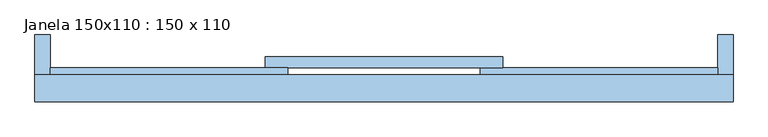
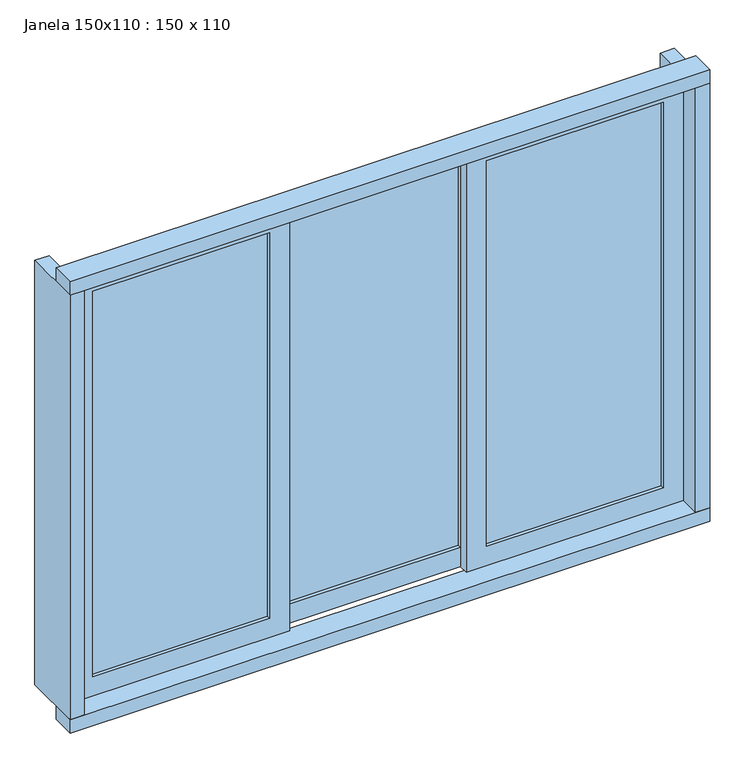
"""IFC4 building model written with IfcOpenShell, lengths in millimetres: window geometry, Janela 150x110 : 150 x 110."""

from ifc_helpers import new_model, si_unit, frame, origin, place, context, project, spatial, polyline, outline, extrude, source, transform, mapped, element, save


def janela_150x110_150_x_110_7297cc43(model_context):
    return source(origin(), model_context, "Body", "SweptSolid", [
        extrude(outline(polyline([(-137.320606, -9.5), (-137.320606, -15.5), (-570.650606, -15.5), (-570.650606, -9.5), (-137.320606, -9.5)])), frame((0.0, 0.0, 1050.0), z_axis=(0.0, 0.0, 1.0), x_axis=(1.0, 0.0, 0.0)), (0.0, 0.0, 1.0), 1000.0),
        extrude(outline(polyline([(2100.0, -87.320606), (2100.0, -620.650606), (1000.0, -620.650606), (1000.0, -87.320606), (2100.0, -87.320606)]), holes=[polyline([(2050.0, -137.320606), (1050.0, -137.320606), (1050.0, -570.650606), (2050.0, -570.650606), (2050.0, -137.320606)])]), frame((0.0, -25.0, 0.0), z_axis=(0.0, 1.0, 0.0), x_axis=(0.0, 0.0, 1.0)), (0.0, 0.0, 1.0), 25.0),
        extrude(outline(polyline([(-87.2614491, 15.5), (346.0685509, 15.5), (346.0685509, 9.5), (-87.2614491, 9.5), (-87.2614491, 15.5)])), frame((0.0, 0.0, 1050.0), z_axis=(0.0, 0.0, 1.0), x_axis=(1.0, 0.0, 0.0)), (0.0, 0.0, 1.0), 1000.0),
        extrude(outline(polyline([(2100.0, -137.2614491), (1000.0, -137.2614491), (1000.0, 396.0685509), (2100.0, 396.0685509), (2100.0, -137.2614491)]), holes=[polyline([(2050.0, -87.2614491), (2050.0, 346.0685509), (1050.0, 346.0685509), (1050.0, -87.2614491), (2050.0, -87.2614491)])]), frame((0.0, 0.0, 0.0), z_axis=(0.0, 1.0, 0.0), x_axis=(0.0, 0.0, 1.0)), (0.0, 0.0, 1.0), 25.0),
        extrude(outline(polyline([(396.1277079, -9.5), (829.4577079, -9.5), (829.4577079, -15.5), (396.1277079, -15.5), (396.1277079, -9.5)])), frame((0.0, 0.0, 1050.0), z_axis=(0.0, 0.0, 1.0), x_axis=(1.0, 0.0, 0.0)), (0.0, 0.0, 1.0), 1000.0),
        extrude(outline(polyline([(2100.0, 346.1277079), (1000.0, 346.1277079), (1000.0, 879.4577079), (2100.0, 879.4577079), (2100.0, 346.1277079)]), holes=[polyline([(2050.0, 396.1277079), (2050.0, 829.4577079), (1050.0, 829.4577079), (1050.0, 396.1277079), (2050.0, 396.1277079)])]), frame((0.0, -25.0, 0.0), z_axis=(0.0, 1.0, 0.0), x_axis=(0.0, 0.0, 1.0)), (0.0, 0.0, 1.0), 25.0),
        extrude(outline(polyline([(-655.5964491, 74.1241605), (-620.5964491, 74.1241605), (-620.5964491, -75.8758395), (-655.5964491, -75.8758395), (-655.5964491, 74.1241605)])), frame((0.0, 0.0, 1000.0), z_axis=(0.0, 0.0, 1.0), x_axis=(1.0, 0.0, 0.0)), (0.0, 0.0, 1.0), 1100.0),
        extrude(outline(polyline([(879.4035509, 74.1241605), (914.4035509, 74.1241605), (914.4035509, -75.8758395), (879.4035509, -75.8758395), (879.4035509, 74.1241605)])), frame((0.0, 0.0, 1000.0), z_axis=(0.0, 0.0, 1.0), x_axis=(1.0, 0.0, 0.0)), (0.0, 0.0, 1.0), 1100.0),
        extrude(outline(polyline([(-655.5964491, -15.8758395), (914.4035509, -15.8758395), (914.4035509, -75.8758395), (-655.5964491, -75.8758395), (-655.5964491, -15.8758395)])), frame((0.0, 0.0, 965.0), z_axis=(0.0, 0.0, 1.0), x_axis=(1.0, 0.0, 0.0)), (0.0, 0.0, 1.0), 35.0),
        extrude(outline(polyline([(-655.5964491, -15.8758395), (914.4035509, -15.8758395), (914.4035509, -75.8758395), (-655.5964491, -75.8758395), (-655.5964491, -15.8758395)])), frame((0.0, 0.0, 2100.0), z_axis=(0.0, 0.0, 1.0), x_axis=(1.0, 0.0, 0.0)), (0.0, 0.0, 1.0), 35.0),
    ])


if __name__ == "__main__":
    model = new_model("IFC4")
    model_context = context("Model", 3, world=origin())
    ifc_project = project(units=[si_unit("LENGTHUNIT", "METRE", prefix="MILLI")], contexts=[model_context])
    site = spatial("IfcSite", under=ifc_project)
    building = spatial("IfcBuilding", under=site)
    placement = place(None, origin())
    janela_150x110_150_x_110_shape = janela_150x110_150_x_110_7297cc43(model_context)
    element("IfcWindow", 1, ObjectType="Janela 150x110 : 150 x 110", at=placement, inside=building, context=model_context, shape_type="MappedRepresentation", body=[
        mapped(janela_150x110_150_x_110_shape, transform((0.0, 0.0, 0.0), x_axis=(1.0, 0.0, 0.0), y_axis=(0.0, 1.0, 0.0), z_axis=(0.0, 0.0, 1.0))),
    ])
    save(model, "model.ifc")
